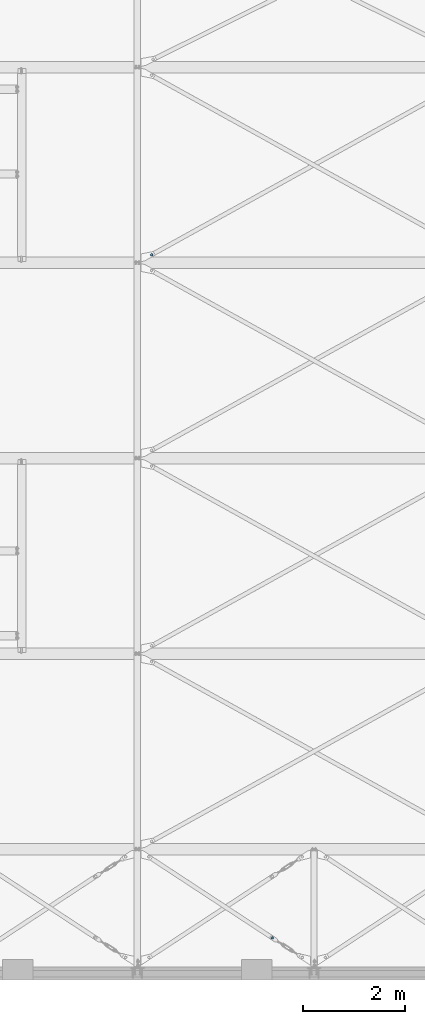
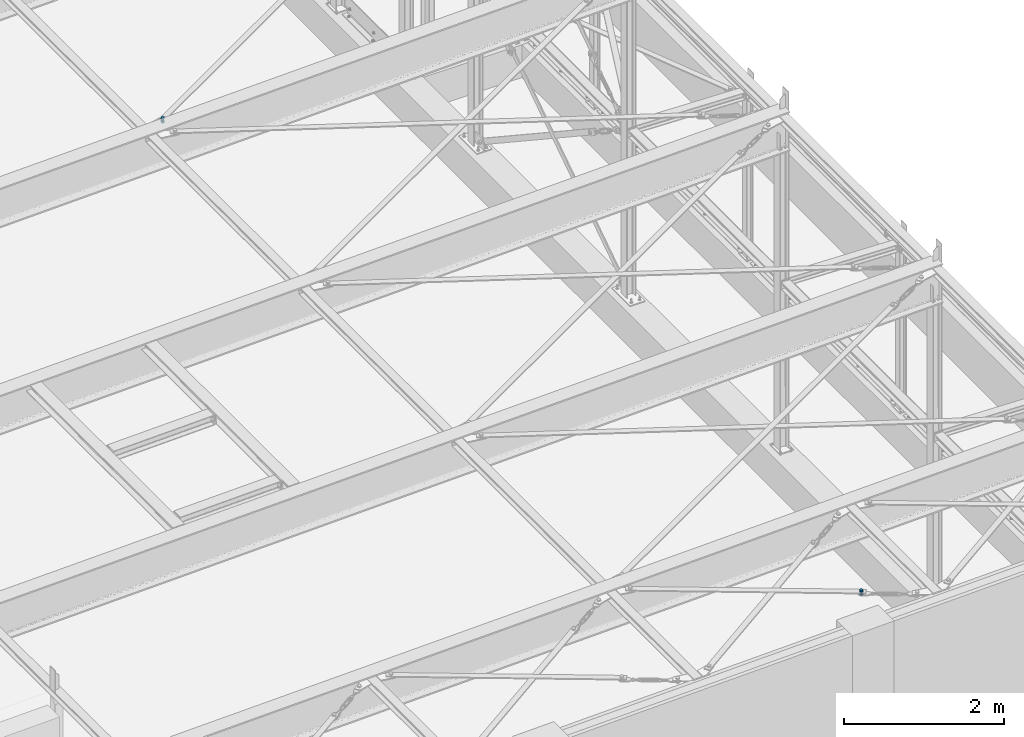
# One storey, part 130 of 476: 2 mechanical fasteners.
"""IFC2X3 building model written with IfcOpenShell, lengths in millimetres."""

from ifc_helpers import new_model, entity, si_unit, converted_unit, origin_with_axes, place, context, project, spatial, faceted_brep, element, save


model = new_model("IFC2X3")

# Units and contexts
model_context = context("Model", 3, precision=1e-09, world=origin_with_axes())
ifc_project = project(units=[si_unit("LENGTHUNIT", "METRE", prefix="MILLI"), si_unit("AREAUNIT", "SQUARE_METRE"), si_unit("VOLUMEUNIT", "CUBIC_METRE"), converted_unit("PLANEANGLEUNIT", "DEGREE", entity("IfcPlaneAngleMeasure", 0.01745329), si_unit("PLANEANGLEUNIT", "RADIAN"), dimensions=[0, 0, 0, 0, 0, 0, 0])], contexts=[model_context])

# Site, building, storey
site_placement = place(None, origin_with_axes())
site = spatial("IfcSite", under=ifc_project, at=site_placement, Name="mKR Teilneubau & Sanierung BA1 - Ostfildern", CompositionType="ELEMENT")
building_placement = place(site_placement, origin_with_axes())
building = spatial("IfcBuilding", under=site, at=building_placement, Name="Struktur 1", CompositionType="ELEMENT")
storey_placement = place(building_placement, origin_with_axes())
storey = spatial("IfcBuildingStorey", under=building, at=storey_placement, Name="Default Storey", CompositionType="ELEMENT", Elevation=0.0)

# Mechanical fasteners
mechanical_fastener_1_placement = place(None, origin_with_axes())
element("IfcMechanicalFastener", 1, at=mechanical_fastener_1_placement, inside=storey, ObjectType="-", NominalDiameter=27.0, NominalLength=70.0, context=model_context, shape_type="Brep", body=[
    faceted_brep([(15364.696361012, -9598.892102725, 5445.772673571), (15364.546151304, -9598.892102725, 5450.770416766), (15366.486455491, -9603.392126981, 5450.828733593), (15366.636665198, -9603.392126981, 5445.830990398), (15367.51196235, -9608.184390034, 5450.859555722), (15367.662172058, -9608.184390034, 5445.861812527), (15367.583262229, -9613.084727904, 5450.861698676), (15367.733471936, -9613.084727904, 5445.863955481), (15366.697615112, -9617.904823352, 5450.835080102), (15366.84782482, -9617.904823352, 5445.837336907), (15364.889055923, -9622.459442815, 5450.780722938), (15365.03926563, -9622.459442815, 5445.782979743), (15362.227086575, -9626.573554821, 5450.700716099), (15362.377296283, -9626.573554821, 5445.702972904), (15358.81400506, -9630.089056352, 5450.598134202), (15358.964214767, -9630.089056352, 5445.600391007), (15354.780974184, -9632.870848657, 5450.476919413), (15354.931183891, -9632.870848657, 5445.479176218), (15350.282981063, -9634.812029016, 5450.341729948), (15350.43319077, -9634.812029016, 5445.343986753), (15345.49288105, -9635.837998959, 5450.197761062), (15345.643090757, -9635.837998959, 5445.200017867), (15340.594755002, -9635.909331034, 5450.050545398), (15340.74496471, -9635.909331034, 5445.052802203), (15335.776835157, -9635.02328399, 5449.905740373), (15335.927044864, -9635.02328399, 5444.907997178), (15331.224271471, -9633.213908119, 5449.768910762), (15331.374481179, -9633.213908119, 5444.771167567), (15327.112016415, -9630.55073672, 5449.64531485), (15327.262226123, -9630.55073672, 5444.647571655), (15323.598101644, -9627.136113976, 5449.539702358), (15323.748311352, -9627.136113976, 5444.541959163), (15320.817564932, -9623.101261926, 5449.456131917), (15320.967774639, -9623.101261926, 5444.458388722), (15318.877260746, -9618.60123767, 5449.39781509), (15319.027470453, -9618.60123767, 5444.400071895), (15317.851753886, -9613.808974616, 5449.366992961), (15318.001963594, -9613.808974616, 5444.369249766), (15317.780454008, -9608.908636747, 5449.364850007), (15317.930663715, -9608.908636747, 5444.367106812), (15318.666101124, -9604.088541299, 5449.391468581), (15318.816310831, -9604.088541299, 5444.393725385), (15320.474660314, -9599.533921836, 5449.445825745), (15320.624870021, -9599.533921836, 5444.448082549), (15323.136629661, -9595.41980983, 5449.525832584), (15323.286839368, -9595.41980983, 5444.528089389), (15326.549711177, -9591.904308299, 5449.62841448), (15326.699920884, -9591.904308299, 5444.630671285), (15330.582742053, -9589.122515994, 5449.74962927), (15330.73295176, -9589.122515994, 5444.751886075), (15335.080735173, -9587.181335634, 5449.884818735), (15335.230944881, -9587.181335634, 5444.88707554), (15339.870835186, -9586.155365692, 5450.028787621), (15340.021044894, -9586.155365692, 5445.031044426), (15344.768961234, -9586.084033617, 5450.176003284), (15344.919170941, -9586.084033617, 5445.178260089), (15349.58688108, -9586.970080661, 5450.32080831), (15349.737090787, -9586.970080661, 5445.323065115), (15354.139444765, -9588.779456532, 5450.457637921), (15354.289654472, -9588.779456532, 5445.459894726), (15358.251699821, -9591.442627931, 5450.581233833), (15358.401909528, -9591.442627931, 5445.583490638), (15361.765614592, -9594.857250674, 5450.686846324), (15361.9158243, -9594.857250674, 5445.689103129)], [[[0, 1, 2, 3]], [[3, 2, 4, 5]], [[5, 4, 6, 7]], [[7, 6, 8, 9]], [[9, 8, 10, 11]], [[11, 10, 12, 13]], [[13, 12, 14, 15]], [[15, 14, 16, 17]], [[17, 16, 18, 19]], [[19, 18, 20, 21]], [[21, 20, 22, 23]], [[23, 22, 24, 25]], [[25, 24, 26, 27]], [[27, 26, 28, 29]], [[29, 28, 30, 31]], [[31, 30, 32, 33]], [[33, 32, 34, 35]], [[35, 34, 36, 37]], [[37, 36, 38, 39]], [[39, 38, 40, 41]], [[41, 40, 42, 43]], [[43, 42, 44, 45]], [[45, 44, 46, 47]], [[47, 46, 48, 49]], [[49, 48, 50, 51]], [[51, 50, 52, 53]], [[53, 52, 54, 55]], [[55, 54, 56, 57]], [[57, 56, 58, 59]], [[59, 58, 60, 61]], [[61, 60, 62, 63]], [[63, 62, 1, 0]], [[2, 1, 62, 60, 58, 56, 54, 52, 50, 48, 46, 44, 42, 40, 38, 36, 34, 32, 30, 28, 26, 24, 22, 20, 18, 16, 14, 12, 10, 8, 6, 4]], [[63, 0, 3, 5, 7, 9, 11, 13, 15, 17, 19, 21, 23, 25, 27, 29, 31, 33, 35, 37, 39, 41, 43, 45, 47, 49, 51, 53, 55, 57, 59, 61]]]),
    faceted_brep([(15329.066616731, -9632.780778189, 5466.711737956), (15329.577329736, -9632.780778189, 5449.719411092), (15354.986659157, -9633.242709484, 5450.48310138), (15354.475946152, -9633.242709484, 5467.475428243), (15368.091187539, -9611.45861362, 5450.876964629), (15367.580474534, -9611.45861362, 5467.869291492), (15355.7863865, -9589.212586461, 5450.507137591), (15355.275673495, -9589.212586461, 5467.499464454), (15330.377057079, -9588.750655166, 5449.743447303), (15329.866344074, -9588.750655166, 5466.735774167), (15317.272528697, -9610.53475103, 5449.349584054), (15316.761815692, -9610.53475103, 5466.341910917)], [[[0, 1, 2, 3]], [[3, 2, 4, 5]], [[5, 4, 6, 7]], [[7, 6, 8, 9]], [[9, 8, 10, 11]], [[11, 10, 1, 0]], [[3, 5, 7, 9, 11, 0]], [[2, 1, 10, 8, 6, 4]]]),
    faceted_brep([(15355.540034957, -9604.460209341, 5415.484242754), (15354.638786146, -9604.460209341, 5445.470388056), (15356.240324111, -9609.478044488, 5445.518523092), (15357.141572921, -9609.478044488, 5415.53237779), (15355.800576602, -9614.72707848, 5445.505306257), (15356.701825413, -9614.72707848, 5415.519160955), (15353.386491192, -9619.408193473, 5445.432749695), (15354.287740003, -9619.408193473, 5415.446604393), (15349.365590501, -9622.808732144, 5445.311899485), (15350.266839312, -9622.808732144, 5415.325754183), (15344.350020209, -9624.410993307, 5445.161153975), (15345.251269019, -9624.410993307, 5415.175008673), (15339.103355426, -9623.971047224, 5445.003462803), (15340.004604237, -9623.971047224, 5415.017317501), (15334.424353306, -9621.555871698, 5444.862833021), (15335.325602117, -9621.555871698, 5414.876687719), (15331.025349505, -9617.53315531, 5444.760674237), (15331.926598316, -9617.53315531, 5414.774528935), (15329.42381154, -9612.515320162, 5444.712539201), (15330.325060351, -9612.515320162, 5414.726393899), (15329.863559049, -9607.266286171, 5444.725756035), (15330.764807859, -9607.266286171, 5414.739610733), (15332.277644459, -9602.585171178, 5444.798312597), (15333.178893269, -9602.585171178, 5414.812167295), (15336.29854515, -9599.184632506, 5444.919162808), (15337.199793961, -9599.184632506, 5414.933017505), (15341.314115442, -9597.582371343, 5445.069908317), (15342.215364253, -9597.582371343, 5415.083763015), (15346.560780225, -9598.022317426, 5445.227599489), (15347.462029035, -9598.022317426, 5415.241454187), (15351.239782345, -9600.437492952, 5445.368229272), (15352.141031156, -9600.437492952, 5415.38208397)], [[[0, 1, 2, 3]], [[3, 2, 4, 5]], [[5, 4, 6, 7]], [[7, 6, 8, 9]], [[9, 8, 10, 11]], [[11, 10, 12, 13]], [[13, 12, 14, 15]], [[15, 14, 16, 17]], [[17, 16, 18, 19]], [[19, 18, 20, 21]], [[21, 20, 22, 23]], [[23, 22, 24, 25]], [[25, 24, 26, 27]], [[27, 26, 28, 29]], [[29, 28, 30, 31]], [[31, 30, 1, 0]], [[2, 1, 30, 28, 26, 24, 22, 20, 18, 16, 14, 12, 10, 8, 6, 4]], [[31, 0, 3, 5, 7, 9, 11, 13, 15, 17, 19, 21, 23, 25, 27, 29]]]),
    faceted_brep([(15365.74781953, -9598.892102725, 5410.788785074), (15365.597609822, -9598.892102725, 5415.786528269), (15367.537914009, -9603.392126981, 5415.844845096), (15367.688123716, -9603.392126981, 5410.847101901), (15368.563420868, -9608.184390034, 5415.875667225), (15368.713630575, -9608.184390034, 5410.87792403), (15368.634720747, -9613.084727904, 5415.877810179), (15368.784930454, -9613.084727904, 5410.880066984), (15367.74907363, -9617.904823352, 5415.851191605), (15367.899283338, -9617.904823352, 5410.85344841), (15365.940514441, -9622.459442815, 5415.796834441), (15366.090724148, -9622.459442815, 5410.799091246), (15363.278545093, -9626.573554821, 5415.716827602), (15363.428754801, -9626.573554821, 5410.719084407), (15359.865463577, -9630.089056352, 5415.614245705), (15360.015673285, -9630.089056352, 5410.61650251), (15355.832432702, -9632.870848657, 5415.493030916), (15355.982642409, -9632.870848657, 5410.495287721), (15351.334439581, -9634.812029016, 5415.357841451), (15351.484649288, -9634.812029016, 5410.360098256), (15346.544339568, -9635.837998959, 5415.213872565), (15346.694549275, -9635.837998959, 5410.21612937), (15341.64621352, -9635.909331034, 5415.066656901), (15341.796423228, -9635.909331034, 5410.068913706), (15336.828293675, -9635.02328399, 5414.921851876), (15336.978503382, -9635.02328399, 5409.924108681), (15332.275729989, -9633.213908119, 5414.785022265), (15332.425939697, -9633.213908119, 5409.78727907), (15328.163474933, -9630.55073672, 5414.661426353), (15328.313684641, -9630.55073672, 5409.663683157), (15324.649560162, -9627.136113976, 5414.555813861), (15324.79976987, -9627.136113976, 5409.558070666), (15321.86902345, -9623.101261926, 5414.47224342), (15322.019233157, -9623.101261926, 5409.474500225), (15319.928719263, -9618.60123767, 5414.413926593), (15320.078928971, -9618.60123767, 5409.416183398), (15318.903212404, -9613.808974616, 5414.383104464), (15319.053422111, -9613.808974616, 5409.385361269), (15318.831912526, -9608.908636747, 5414.38096151), (15318.982122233, -9608.908636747, 5409.383218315), (15319.717559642, -9604.088541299, 5414.407580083), (15319.867769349, -9604.088541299, 5409.409836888), (15321.526118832, -9599.533921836, 5414.461937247), (15321.676328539, -9599.533921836, 5409.464194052), (15324.188088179, -9595.41980983, 5414.541944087), (15324.338297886, -9595.41980983, 5409.544200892), (15327.601169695, -9591.904308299, 5414.644525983), (15327.751379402, -9591.904308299, 5409.646782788), (15331.634200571, -9589.122515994, 5414.765740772), (15331.784410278, -9589.122515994, 5409.767997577), (15336.132193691, -9587.181335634, 5414.900930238), (15336.282403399, -9587.181335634, 5409.903187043), (15340.922293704, -9586.155365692, 5415.044899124), (15341.072503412, -9586.155365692, 5410.047155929), (15345.820419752, -9586.084033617, 5415.192114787), (15345.970629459, -9586.084033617, 5410.194371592), (15350.638339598, -9586.970080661, 5415.336919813), (15350.788549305, -9586.970080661, 5410.339176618), (15355.190903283, -9588.779456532, 5415.473749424), (15355.34111299, -9588.779456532, 5410.476006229), (15359.303158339, -9591.442627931, 5415.597345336), (15359.453368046, -9591.442627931, 5410.599602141), (15362.81707311, -9594.857250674, 5415.702957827), (15362.967282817, -9594.857250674, 5410.705214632)], [[[0, 1, 2, 3]], [[3, 2, 4, 5]], [[5, 4, 6, 7]], [[7, 6, 8, 9]], [[9, 8, 10, 11]], [[11, 10, 12, 13]], [[13, 12, 14, 15]], [[15, 14, 16, 17]], [[17, 16, 18, 19]], [[19, 18, 20, 21]], [[21, 20, 22, 23]], [[23, 22, 24, 25]], [[25, 24, 26, 27]], [[27, 26, 28, 29]], [[29, 28, 30, 31]], [[31, 30, 32, 33]], [[33, 32, 34, 35]], [[35, 34, 36, 37]], [[37, 36, 38, 39]], [[39, 38, 40, 41]], [[41, 40, 42, 43]], [[43, 42, 44, 45]], [[45, 44, 46, 47]], [[47, 46, 48, 49]], [[49, 48, 50, 51]], [[51, 50, 52, 53]], [[53, 52, 54, 55]], [[55, 54, 56, 57]], [[57, 56, 58, 59]], [[59, 58, 60, 61]], [[61, 60, 62, 63]], [[63, 62, 1, 0]], [[2, 1, 62, 60, 58, 56, 54, 52, 50, 48, 46, 44, 42, 40, 38, 36, 34, 32, 30, 28, 26, 24, 22, 20, 18, 16, 14, 12, 10, 8, 6, 4]], [[63, 0, 3, 5, 7, 9, 11, 13, 15, 17, 19, 21, 23, 25, 27, 29, 31, 33, 35, 37, 39, 41, 43, 45, 47, 49, 51, 53, 55, 57, 59, 61]]]),
    faceted_brep([(15330.740341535, -9632.845038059, 5409.736617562), (15331.401264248, -9632.845038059, 5387.746547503), (15356.885547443, -9633.308331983, 5388.512490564), (15356.22462473, -9633.308331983, 5410.502560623), (15370.028732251, -9611.459976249, 5388.907515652), (15369.367809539, -9611.459976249, 5410.89758571), (15357.687633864, -9589.148326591, 5388.536597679), (15357.026711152, -9589.148326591, 5410.526667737), (15332.203350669, -9588.685032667, 5387.770654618), (15331.542427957, -9588.685032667, 5409.760724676), (15319.060165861, -9610.533388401, 5387.37562953), (15318.399243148, -9610.533388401, 5409.365699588)], [[[0, 1, 2, 3]], [[3, 2, 4, 5]], [[5, 4, 6, 7]], [[7, 6, 8, 9]], [[9, 8, 10, 11]], [[11, 10, 1, 0]], [[3, 5, 7, 9, 11, 0]], [[2, 1, 10, 8, 6, 4]]]),
    faceted_brep([(15356.591512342, -9604.460209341, 5380.49972652), (15356.351167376, -9604.460209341, 5388.4964295), (15357.952705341, -9609.478044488, 5388.544564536), (15358.193050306, -9609.478044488, 5380.547861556), (15357.512957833, -9614.72707848, 5388.531347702), (15357.753302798, -9614.72707848, 5380.534644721), (15355.098872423, -9619.408193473, 5388.45879114), (15355.339217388, -9619.408193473, 5380.46208816), (15351.077971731, -9622.808732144, 5388.33794093), (15351.318316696, -9622.808732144, 5380.341237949), (15346.062401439, -9624.410993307, 5388.18719542), (15346.302746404, -9624.410993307, 5380.19049244), (15340.815736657, -9623.971047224, 5388.029504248), (15341.056081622, -9623.971047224, 5380.032801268), (15336.136734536, -9621.555871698, 5387.888874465), (15336.377079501, -9621.555871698, 5379.892171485), (15332.737730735, -9617.53315531, 5387.786715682), (15332.978075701, -9617.53315531, 5379.790012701), (15331.136192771, -9612.515320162, 5387.738580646), (15331.376537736, -9612.515320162, 5379.741877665), (15331.575940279, -9607.266286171, 5387.75179748), (15331.816285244, -9607.266286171, 5379.7550945), (15333.990025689, -9602.585171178, 5387.824354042), (15334.230370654, -9602.585171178, 5379.827651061), (15338.01092638, -9599.184632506, 5387.945204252), (15338.251271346, -9599.184632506, 5379.948501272), (15343.026496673, -9597.582371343, 5388.095949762), (15343.266841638, -9597.582371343, 5380.099246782), (15348.273161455, -9598.022317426, 5388.253640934), (15348.51350642, -9598.022317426, 5380.256937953), (15352.952163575, -9600.437492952, 5388.394270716), (15353.192508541, -9600.437492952, 5380.397567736)], [[[0, 1, 2, 3]], [[3, 2, 4, 5]], [[5, 4, 6, 7]], [[7, 6, 8, 9]], [[9, 8, 10, 11]], [[11, 10, 12, 13]], [[13, 12, 14, 15]], [[15, 14, 16, 17]], [[17, 16, 18, 19]], [[19, 18, 20, 21]], [[21, 20, 22, 23]], [[23, 22, 24, 25]], [[25, 24, 26, 27]], [[27, 26, 28, 29]], [[29, 28, 30, 31]], [[31, 30, 1, 0]], [[2, 1, 30, 28, 26, 24, 22, 20, 18, 16, 14, 12, 10, 8, 6, 4]], [[31, 0, 3, 5, 7, 9, 11, 13, 15, 17, 19, 21, 23, 25, 27, 29]]]),
])
mechanical_fastener_2_placement = place(None, origin_with_axes())
element("IfcMechanicalFastener", 2, at=mechanical_fastener_2_placement, inside=storey, ObjectType="-", NominalDiameter=27.0, NominalLength=70.0, context=model_context, shape_type="Brep", body=[
    faceted_brep([(17724.405773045, -22971.982515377, 5521.619588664), (17724.555982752, -22971.982515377, 5516.621845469), (17726.828331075, -22967.640837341, 5516.690142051), (17726.678121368, -22967.640837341, 5521.687885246), (17728.210379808, -22962.93907008, 5516.731680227), (17728.0601701, -22962.93907008, 5521.729423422), (17728.649017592, -22958.057899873, 5516.744863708), (17728.498807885, -22958.057899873, 5521.742606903), (17728.127387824, -22953.184907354, 5516.729185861), (17727.977178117, -22953.184907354, 5521.726929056), (17726.665536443, -22948.507358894, 5516.685249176), (17726.515326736, -22948.507358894, 5521.682992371), (17724.319641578, -22944.205010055, 5516.614742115), (17724.169431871, -22944.205010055, 5521.61248531), (17721.179854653, -22940.443197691, 5516.520374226), (17721.029644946, -22940.443197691, 5521.518117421), (17717.366835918, -22937.366486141, 5516.405772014), (17717.216626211, -22937.366486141, 5521.403515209), (17713.027117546, -22935.093111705, 5516.275339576), (17712.876907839, -22935.093111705, 5521.273082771), (17708.327472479, -22933.710438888, 5516.134089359), (17708.177262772, -22933.710438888, 5521.131832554), (17703.448505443, -22933.27160303, 5515.98744953), (17703.298295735, -22933.27160303, 5520.985192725), (17698.577712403, -22933.793468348, 5515.841055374), (17698.427502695, -22933.793468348, 5520.838798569), (17693.902275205, -22935.25597985, 5515.700532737), (17693.752065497, -22935.25597985, 5520.698275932), (17689.601868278, -22937.602934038, 5515.571281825), (17689.451658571, -22937.602934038, 5520.56902502), (17685.84175385, -22940.744138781, 5515.458269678), (17685.691544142, -22940.744138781, 5520.456012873), (17682.766431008, -22944.55887934, 5515.36583929), (17682.6162213, -22944.55887934, 5520.363582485), (17680.494082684, -22948.900557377, 5515.297542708), (17680.343872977, -22948.900557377, 5520.295285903), (17679.112033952, -22953.602324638, 5515.256004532), (17678.961824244, -22953.602324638, 5520.253747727), (17678.673396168, -22958.483494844, 5515.242821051), (17678.52318646, -22958.483494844, 5520.240564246), (17679.195025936, -22963.356487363, 5515.258498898), (17679.044816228, -22963.356487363, 5520.256242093), (17680.656877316, -22968.034035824, 5515.302435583), (17680.506667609, -22968.034035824, 5520.300178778), (17683.002772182, -22972.336384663, 5515.372942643), (17682.852562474, -22972.336384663, 5520.370685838), (17686.142559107, -22976.098197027, 5515.467310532), (17685.992349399, -22976.098197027, 5520.465053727), (17689.955577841, -22979.174908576, 5515.581912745), (17689.805368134, -22979.174908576, 5520.57965594), (17694.295296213, -22981.448283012, 5515.712345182), (17694.145086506, -22981.448283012, 5520.710088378), (17698.99494128, -22982.830955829, 5515.853595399), (17698.844731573, -22982.830955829, 5520.851338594), (17703.873908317, -22983.269791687, 5516.000235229), (17703.72369861, -22983.269791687, 5520.997978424), (17708.744701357, -22982.747926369, 5516.146629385), (17708.59449165, -22982.747926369, 5521.14437258), (17713.420138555, -22981.285414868, 5516.287152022), (17713.269928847, -22981.285414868, 5521.284895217), (17717.720545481, -22978.938460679, 5516.416402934), (17717.570335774, -22978.938460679, 5521.414146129), (17721.48065991, -22975.797255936, 5516.529415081), (17721.330450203, -22975.797255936, 5521.527158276)], [[[0, 1, 2, 3]], [[3, 2, 4, 5]], [[5, 4, 6, 7]], [[7, 6, 8, 9]], [[9, 8, 10, 11]], [[11, 10, 12, 13]], [[13, 12, 14, 15]], [[15, 14, 16, 17]], [[17, 16, 18, 19]], [[19, 18, 20, 21]], [[21, 20, 22, 23]], [[23, 22, 24, 25]], [[25, 24, 26, 27]], [[27, 26, 28, 29]], [[29, 28, 30, 31]], [[31, 30, 32, 33]], [[33, 32, 34, 35]], [[35, 34, 36, 37]], [[37, 36, 38, 39]], [[39, 38, 40, 41]], [[41, 40, 42, 43]], [[43, 42, 44, 45]], [[45, 44, 46, 47]], [[47, 46, 48, 49]], [[49, 48, 50, 51]], [[51, 50, 52, 53]], [[53, 52, 54, 55]], [[55, 54, 56, 57]], [[57, 56, 58, 59]], [[59, 58, 60, 61]], [[61, 60, 62, 63]], [[63, 62, 1, 0]], [[0, 3, 5, 7, 9, 11, 13, 15, 17, 19, 21, 23, 25, 27, 29, 31, 33, 35, 37, 39, 41, 43, 45, 47, 49, 51, 53, 55, 57, 59, 61, 63]], [[1, 62, 60, 58, 56, 54, 52, 50, 48, 46, 44, 42, 40, 38, 36, 34, 32, 30, 28, 26, 24, 22, 20, 18, 16, 14, 12, 10, 8, 6, 4, 2]]]),
    faceted_brep([(17692.077280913, -22935.564251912, 5520.647939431), (17691.566567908, -22935.564251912, 5537.640266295), (17716.9389089, -22937.01111455, 5538.402844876), (17717.449621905, -22937.01111455, 5521.410518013), (17728.372625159, -22959.717559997, 5538.746491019), (17728.883338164, -22959.717559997, 5521.754164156), (17714.434000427, -22980.977142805, 5538.327558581), (17714.944713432, -22980.977142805, 5521.335231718), (17689.061659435, -22979.530280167, 5537.56498), (17689.57237244, -22979.530280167, 5520.572653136), (17677.627943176, -22956.82383472, 5537.221333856), (17678.13865618, -22956.82383472, 5520.229006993)], [[[0, 1, 2, 3]], [[3, 2, 4, 5]], [[5, 4, 6, 7]], [[7, 6, 8, 9]], [[9, 8, 10, 11]], [[11, 10, 1, 0]], [[4, 2, 1, 10, 8, 6]], [[0, 3, 5, 7, 9, 11]]]),
    faceted_brep([(17714.944395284, -22965.675079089, 5516.33265018), (17715.845644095, -22965.675079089, 5486.346504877), (17717.819018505, -22960.791618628, 5486.405815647), (17716.917769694, -22960.791618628, 5516.391960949), (17717.774202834, -22955.524370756, 5486.404468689), (17716.872954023, -22955.524370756, 5516.390613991), (17715.718019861, -22950.675226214, 5486.342669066), (17714.81677105, -22950.675226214, 5516.328814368), (17711.963504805, -22946.982423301, 5486.229825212), (17711.062255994, -22946.982423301, 5516.215970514), (17707.082248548, -22945.008157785, 5486.083116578), (17706.180999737, -22945.008157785, 5516.06926188), (17701.817378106, -22945.052993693, 5485.924878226), (17700.916129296, -22945.052993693, 5515.911023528), (17696.970422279, -22947.110105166, 5485.779200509), (17696.069173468, -22947.110105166, 5515.765345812), (17693.279286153, -22950.866315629, 5485.66826154), (17692.378037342, -22950.866315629, 5515.654406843), (17691.305911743, -22955.749776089, 5485.608950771), (17690.404662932, -22955.749776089, 5515.595096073), (17691.350727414, -22961.017023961, 5485.610297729), (17690.449478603, -22961.017023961, 5515.596443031), (17693.406910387, -22965.866168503, 5485.672097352), (17692.505661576, -22965.866168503, 5515.658242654), (17697.161425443, -22969.558971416, 5485.784941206), (17696.260176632, -22969.558971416, 5515.771086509), (17702.0426817, -22971.533236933, 5485.93164984), (17701.141432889, -22971.533236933, 5515.917795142), (17707.307552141, -22971.488401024, 5486.089888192), (17706.406303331, -22971.488401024, 5516.076033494), (17712.154507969, -22969.431289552, 5486.235565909), (17711.253259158, -22969.431289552, 5516.221711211)], [[[0, 1, 2, 3]], [[3, 2, 4, 5]], [[5, 4, 6, 7]], [[7, 6, 8, 9]], [[9, 8, 10, 11]], [[11, 10, 12, 13]], [[13, 12, 14, 15]], [[15, 14, 16, 17]], [[17, 16, 18, 19]], [[19, 18, 20, 21]], [[21, 20, 22, 23]], [[23, 22, 24, 25]], [[25, 24, 26, 27]], [[27, 26, 28, 29]], [[29, 28, 30, 31]], [[31, 30, 1, 0]], [[0, 3, 5, 7, 9, 11, 13, 15, 17, 19, 21, 23, 25, 27, 29, 31]], [[1, 30, 28, 26, 24, 22, 20, 18, 16, 14, 12, 10, 8, 6, 4, 2]]]),
    faceted_brep([(17725.457240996, -22971.982515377, 5486.635386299), (17725.607450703, -22971.982515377, 5481.637643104), (17727.879799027, -22967.640837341, 5481.705939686), (17727.729589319, -22967.640837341, 5486.703682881), (17729.261847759, -22962.93907008, 5481.747477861), (17729.111638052, -22962.93907008, 5486.745221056), (17729.700485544, -22958.057899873, 5481.760661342), (17729.550275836, -22958.057899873, 5486.758404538), (17729.178855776, -22953.184907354, 5481.744983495), (17729.028646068, -22953.184907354, 5486.74272669), (17727.717004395, -22948.507358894, 5481.70104681), (17727.566794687, -22948.507358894, 5486.698790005), (17725.371109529, -22944.205010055, 5481.63053975), (17725.220899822, -22944.205010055, 5486.628282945), (17722.231322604, -22940.443197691, 5481.536171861), (17722.081112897, -22940.443197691, 5486.533915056), (17718.41830387, -22937.366486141, 5481.421569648), (17718.268094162, -22937.366486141, 5486.419312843), (17714.078585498, -22935.093111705, 5481.291137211), (17713.92837579, -22935.093111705, 5486.288880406), (17709.378940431, -22933.710438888, 5481.149886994), (17709.228730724, -22933.710438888, 5486.147630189), (17704.499973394, -22933.27160303, 5481.003247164), (17704.349763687, -22933.27160303, 5486.000990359), (17699.629180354, -22933.793468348, 5480.856853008), (17699.478970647, -22933.793468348, 5485.854596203), (17694.953743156, -22935.25597985, 5480.716330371), (17694.803533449, -22935.25597985, 5485.714073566), (17690.65333623, -22937.602934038, 5480.587079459), (17690.503126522, -22937.602934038, 5485.584822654), (17686.893221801, -22940.744138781, 5480.474067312), (17686.743012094, -22940.744138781, 5485.471810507), (17683.817898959, -22944.55887934, 5480.381636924), (17683.667689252, -22944.55887934, 5485.379380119), (17681.545550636, -22948.900557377, 5480.313340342), (17681.395340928, -22948.900557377, 5485.311083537), (17680.163501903, -22953.602324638, 5480.271802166), (17680.013292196, -22953.602324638, 5485.269545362), (17679.724864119, -22958.483494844, 5480.258618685), (17679.574654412, -22958.483494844, 5485.25636188), (17680.246493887, -22963.356487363, 5480.274296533), (17680.09628418, -22963.356487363, 5485.272039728), (17681.708345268, -22968.034035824, 5480.318233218), (17681.558135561, -22968.034035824, 5485.315976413), (17684.054240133, -22972.336384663, 5480.388740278), (17683.904030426, -22972.336384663, 5485.386483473), (17687.194027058, -22976.098197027, 5480.483108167), (17687.043817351, -22976.098197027, 5485.480851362), (17691.007045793, -22979.174908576, 5480.59771038), (17690.856836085, -22979.174908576, 5485.595453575), (17695.346764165, -22981.448283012, 5480.728142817), (17695.196554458, -22981.448283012, 5485.725886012), (17700.046409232, -22982.830955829, 5480.869393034), (17699.896199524, -22982.830955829, 5485.867136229), (17704.925376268, -22983.269791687, 5481.016032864), (17704.775166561, -22983.269791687, 5486.013776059), (17709.796169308, -22982.747926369, 5481.16242702), (17709.645959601, -22982.747926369, 5486.160170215), (17714.471606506, -22981.285414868, 5481.302949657), (17714.321396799, -22981.285414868, 5486.300692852), (17718.772013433, -22978.938460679, 5481.432200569), (17718.621803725, -22978.938460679, 5486.429943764), (17722.532127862, -22975.797255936, 5481.545212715), (17722.381918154, -22975.797255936, 5486.542955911)], [[[0, 1, 2, 3]], [[3, 2, 4, 5]], [[5, 4, 6, 7]], [[7, 6, 8, 9]], [[9, 8, 10, 11]], [[11, 10, 12, 13]], [[13, 12, 14, 15]], [[15, 14, 16, 17]], [[17, 16, 18, 19]], [[19, 18, 20, 21]], [[21, 20, 22, 23]], [[23, 22, 24, 25]], [[25, 24, 26, 27]], [[27, 26, 28, 29]], [[29, 28, 30, 31]], [[31, 30, 32, 33]], [[33, 32, 34, 35]], [[35, 34, 36, 37]], [[37, 36, 38, 39]], [[39, 38, 40, 41]], [[41, 40, 42, 43]], [[43, 42, 44, 45]], [[45, 44, 46, 47]], [[47, 46, 48, 49]], [[49, 48, 50, 51]], [[51, 50, 52, 53]], [[53, 52, 54, 55]], [[55, 54, 56, 57]], [[57, 56, 58, 59]], [[59, 58, 60, 61]], [[61, 60, 62, 63]], [[63, 62, 1, 0]], [[0, 3, 5, 7, 9, 11, 13, 15, 17, 19, 21, 23, 25, 27, 29, 31, 33, 35, 37, 39, 41, 43, 45, 47, 49, 51, 53, 55, 57, 59, 61, 63]], [[1, 62, 60, 58, 56, 54, 52, 50, 48, 46, 44, 42, 40, 38, 36, 34, 32, 30, 28, 26, 24, 22, 20, 18, 16, 14, 12, 10, 8, 6, 4, 2]]]),
    faceted_brep([(17693.906153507, -22935.497271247, 5458.674910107), (17693.245230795, -22935.497271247, 5480.664980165), (17718.692416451, -22936.948401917, 5481.429808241), (17719.353339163, -22936.948401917, 5459.439738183), (17730.159860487, -22959.721828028, 5481.774468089), (17730.820783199, -22959.721828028, 5459.784398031), (17716.180118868, -22981.04412347, 5481.354299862), (17716.84104158, -22981.04412347, 5459.364229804), (17690.732933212, -22979.592992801, 5480.589471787), (17691.393855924, -22979.592992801, 5458.599401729), (17679.265489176, -22956.819566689, 5480.244811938), (17679.926411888, -22956.819566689, 5458.25474188)], [[[0, 1, 2, 3]], [[3, 2, 4, 5]], [[5, 4, 6, 7]], [[7, 6, 8, 9]], [[9, 8, 10, 11]], [[11, 10, 1, 0]], [[4, 2, 1, 10, 8, 6]], [[0, 3, 5, 7, 9, 11]]]),
    faceted_brep([(17716.656767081, -22965.675079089, 5459.359005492), (17716.897112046, -22965.675079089, 5451.362302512), (17718.870486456, -22960.791618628, 5451.421613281), (17718.630141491, -22960.791618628, 5459.418316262), (17718.825670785, -22955.524370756, 5451.420266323), (17718.58532582, -22955.524370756, 5459.416969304), (17716.769487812, -22950.675226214, 5451.358466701), (17716.529142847, -22950.675226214, 5459.355169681), (17713.014972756, -22946.982423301, 5451.245622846), (17712.774627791, -22946.982423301, 5459.242325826), (17708.133716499, -22945.008157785, 5451.098914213), (17707.893371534, -22945.008157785, 5459.095617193), (17702.868846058, -22945.052993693, 5450.94067586), (17702.628501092, -22945.052993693, 5458.937378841), (17698.02189023, -22947.110105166, 5450.794998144), (17697.781545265, -22947.110105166, 5458.791701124), (17694.330754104, -22950.866315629, 5450.684059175), (17694.090409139, -22950.866315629, 5458.680762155), (17692.357379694, -22955.749776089, 5450.624748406), (17692.117034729, -22955.749776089, 5458.621451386), (17692.402195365, -22961.017023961, 5450.626095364), (17692.1618504, -22961.017023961, 5458.622798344), (17694.458378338, -22965.866168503, 5450.687894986), (17694.218033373, -22965.866168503, 5458.684597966), (17698.212893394, -22969.558971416, 5450.800738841), (17697.972548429, -22969.558971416, 5458.797441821), (17703.094149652, -22971.533236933, 5450.947447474), (17702.853804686, -22971.533236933, 5458.944150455), (17708.359020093, -22971.488401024, 5451.105685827), (17708.118675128, -22971.488401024, 5459.102388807), (17713.20597592, -22969.431289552, 5451.251363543), (17712.965630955, -22969.431289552, 5459.248066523)], [[[0, 1, 2, 3]], [[3, 2, 4, 5]], [[5, 4, 6, 7]], [[7, 6, 8, 9]], [[9, 8, 10, 11]], [[11, 10, 12, 13]], [[13, 12, 14, 15]], [[15, 14, 16, 17]], [[17, 16, 18, 19]], [[19, 18, 20, 21]], [[21, 20, 22, 23]], [[23, 22, 24, 25]], [[25, 24, 26, 27]], [[27, 26, 28, 29]], [[29, 28, 30, 31]], [[31, 30, 1, 0]], [[0, 3, 5, 7, 9, 11, 13, 15, 17, 19, 21, 23, 25, 27, 29, 31]], [[1, 30, 28, 26, 24, 22, 20, 18, 16, 14, 12, 10, 8, 6, 4, 2]]]),
])

save(model, "model.ifc")
